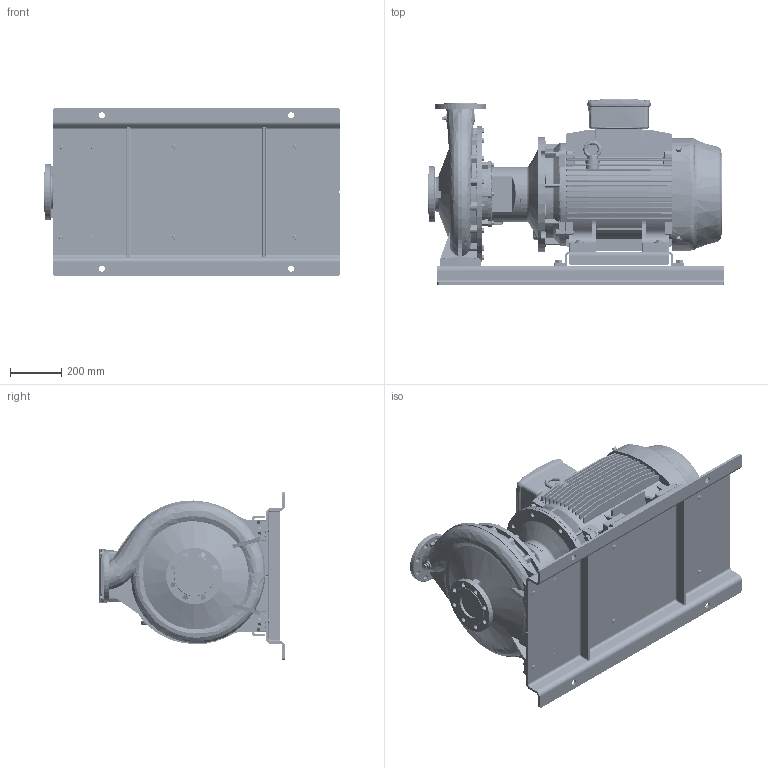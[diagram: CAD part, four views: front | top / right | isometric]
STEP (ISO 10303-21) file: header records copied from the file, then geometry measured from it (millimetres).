
FILE_DESCRIPTION (( 'STEP AP214' ), '1' );
FILE_NAME ('GSD4 80-400_37 & 45_(225SM)_W21_BP.STEP', '2026-05-08T06:26:26', ( '' ), ( '' ), 'SwSTEP 2.0', 'SolidWorks 2024', '' );
FILE_SCHEMA (( 'AUTOMOTIVE_DESIGN' ));
Length unit declared in the file: millimetre
Products named in the file (9): Parametric Flat Washer_M16; N8S3 GSDA-832 F1-1832956-00; 225S_M4P IE3_W21T_B35; Parametric bolt_SFT-A353B; CGS11-5282; 80-400-225S_ﾃﾞﾌｫﾙﾄ; Parametric bolt_SFT-A351B; GSD4 80-400_37 & 45_(225SM)_W21_BP; Parametric bolt_SFT-A359B
Assembly tree (28 placements, depth 2):
  GSD4 80-400_37 & 45_(225SM)_W21_BP
    80-400-225S_ﾃﾞﾌｫﾙﾄ
    225S_M4P IE3_W21T_B35
    N8S3 GSDA-832 F1-1832956-00
    CGS11-5282
    Parametric bolt_SFT-A353B  x4
    Parametric bolt_SFT-A351B  x4
    Parametric bolt_SFT-A359B  x4
    Parametric Flat Washer_M16  x12
Bounding box: 1155 x 728 x 660 mm (x, y, z)
Volume: 149477011 mm3; surface area: 7138252.3 mm2
Topology: 37 solids, 42 shells, 4637 faces, 12228 edges, 7807 vertices
Faces by surface type: plane 1881, cylinder 1593, cone 532, torus 327, bspline 286, sphere 18
Entity records: 181796 total; most frequent: CARTESIAN_POINT 84911, ORIENTED_EDGE 21202, DIRECTION 19231, EDGE_CURVE 10601, AXIS2_PLACEMENT_3D 7050, VERTEX_POINT 6760, LINE 5131, VECTOR 5131
